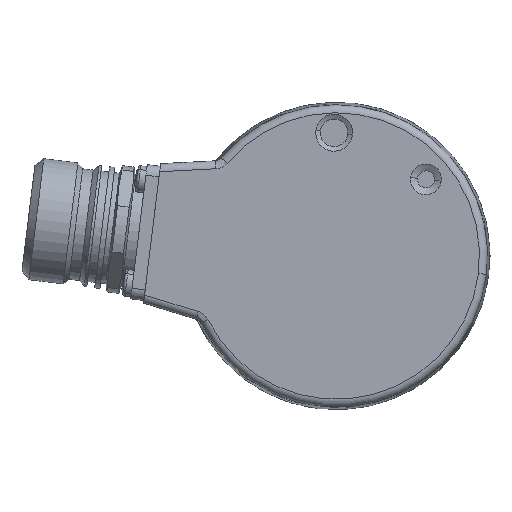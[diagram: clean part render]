
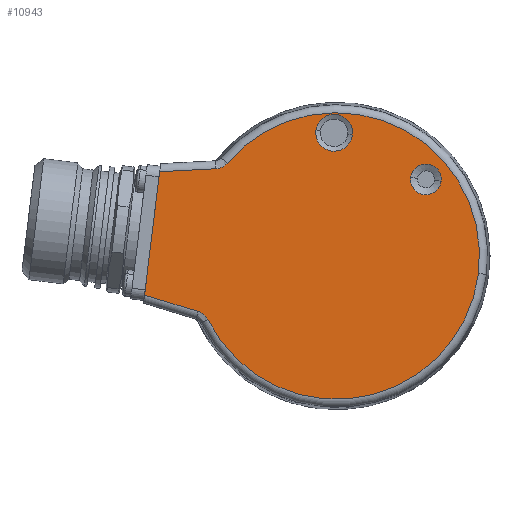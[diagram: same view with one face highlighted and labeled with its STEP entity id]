
A CAD part, left-side view. The second image highlights one B-rep face of the part: STEP entity #10943.
In plain terms, the highlighted planar face has unit normal (-1, 0, 0).
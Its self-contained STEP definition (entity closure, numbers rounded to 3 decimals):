
#5109 = CARTESIAN_POINT ( 'NONE',  ( -30.5, 3.846, 23.669 ) ) ;
#5233 = CARTESIAN_POINT ( 'NONE',  ( -30.5, 22.708, 16.461 ) ) ;
#5305 = DIRECTION ( 'NONE',  ( 1., 0., 0. ) ) ;
#5306 = CARTESIAN_POINT ( 'NONE',  ( -30.5, 0.406, 23.246 ) ) ;
#5307 = AXIS2_PLACEMENT_3D ( 'NONE', #5306, #5305, #5437 ) ;
#5308 = CIRCLE ( 'NONE', #5307, 3.466 ) ;
#5310 = CARTESIAN_POINT ( 'NONE',  ( -30.5, -3.034, 22.824 ) ) ;
#5437 = DIRECTION ( 'NONE',  ( 0., -0.993, -0.122 ) ) ;
#5537 = CARTESIAN_POINT ( 'NONE',  ( -30.5, -14.042, 14.804 ) ) ;
#5538 = DIRECTION ( 'NONE',  ( 0., -0.993, -0.122 ) ) ;
#5539 = DIRECTION ( 'NONE',  ( 1., 0., 0. ) ) ;
#5540 = CARTESIAN_POINT ( 'NONE',  ( -30.5, -16.919, 14.45 ) ) ;
#5541 = AXIS2_PLACEMENT_3D ( 'NONE', #5540, #5539, #5538 ) ;
#5542 = CIRCLE ( 'NONE', #5541, 2.899 ) ;
#5543 = CARTESIAN_POINT ( 'NONE',  ( -30.5, -19.796, 14.097 ) ) ;
#5755 = CARTESIAN_POINT ( 'NONE',  ( -30.5, 20.579, 17.512 ) ) ;
#5756 = CARTESIAN_POINT ( 'NONE',  ( -30.5, -26.821, -3.293 ) ) ;
#5757 = DIRECTION ( 'NONE',  ( 0., -0.993, -0.122 ) ) ;
#5758 = DIRECTION ( 'NONE',  ( -1., 0., 0. ) ) ;
#5759 = CARTESIAN_POINT ( 'NONE',  ( -30.5, 0., 0. ) ) ;
#5760 = AXIS2_PLACEMENT_3D ( 'NONE', #5759, #5758, #5757 ) ;
#5761 = CIRCLE ( 'NONE', #5760, 27.022 ) ;
#6009 = VECTOR ( 'NONE', #6018, 1000. ) ;
#6018 = DIRECTION ( 'NONE',  ( 0., -0.956, -0.292 ) ) ;
#6019 = CARTESIAN_POINT ( 'NONE',  ( -30.5, 25.362, -10.678 ) ) ;
#6021 = LINE ( 'NONE', #6019, #6009 ) ;
#6025 = CARTESIAN_POINT ( 'NONE',  ( -30.5, 33.31, 15.905 ) ) ;
#6071 = DIRECTION ( 'NONE',  ( 0., 0.999, -0.052 ) ) ;
#6072 = VECTOR ( 'NONE', #6071, 1000. ) ;
#6073 = CARTESIAN_POINT ( 'NONE',  ( -30.5, 33.046, 15.919 ) ) ;
#6074 = LINE ( 'NONE', #6073, #6072 ) ;
#6098 = CARTESIAN_POINT ( 'NONE',  ( -30.5, 26.015, -10.478 ) ) ;
#6099 = CARTESIAN_POINT ( 'NONE',  ( -30.5, 25.819, -10.538 ) ) ;
#6100 = CARTESIAN_POINT ( 'NONE',  ( -30.5, 25.632, -10.617 ) ) ;
#6101 = CARTESIAN_POINT ( 'NONE',  ( -30.5, 25.277, -10.811 ) ) ;
#6102 = CARTESIAN_POINT ( 'NONE',  ( -30.5, 25.107, -10.927 ) ) ;
#6103 = CARTESIAN_POINT ( 'NONE',  ( -30.5, 24.797, -11.19 ) ) ;
#6104 = CARTESIAN_POINT ( 'NONE',  ( -30.5, 24.657, -11.336 ) ) ;
#6105 = CARTESIAN_POINT ( 'NONE',  ( -30.5, 24.406, -11.656 ) ) ;
#6106 = CARTESIAN_POINT ( 'NONE',  ( -30.5, 24.296, -11.83 ) ) ;
#6107 = CARTESIAN_POINT ( 'NONE',  ( -30.5, 24.205, -12.014 ) ) ;
#6110 = B_SPLINE_CURVE_WITH_KNOTS ( 'NONE', 3,
 ( #6107, #6106, #6105, #6104, #6103, #6102, #6101, #6100, #6099, #6098 ),
 .UNSPECIFIED., .F., .F.,
 ( 4, 2, 2, 2, 4 ),
 ( 0., 0.001, 0.001, 0.002, 0.002 ),
 .UNSPECIFIED. ) ;
#6157 = DIRECTION ( 'NONE',  ( 0., -0.993, -0.122 ) ) ;
#6158 = DIRECTION ( 'NONE',  ( -1., 0., 0. ) ) ;
#6159 = AXIS2_PLACEMENT_3D ( 'NONE', #6166, #6158, #6157 ) ;
#6160 = CIRCLE ( 'NONE', #6159, 27.022 ) ;
#6166 = CARTESIAN_POINT ( 'NONE',  ( -30.5, 0., 0. ) ) ;
#6210 = CARTESIAN_POINT ( 'NONE',  ( -30.5, 24.205, -12.014 ) ) ;
#6222 = DIRECTION ( 'NONE',  ( 0., -0.122, 0.993 ) ) ;
#6223 = VECTOR ( 'NONE', #6222, 1000. ) ;
#6224 = CARTESIAN_POINT ( 'NONE',  ( -30.5, 36.354, -8.886 ) ) ;
#6225 = LINE ( 'NONE', #6224, #6223 ) ;
#6334 = CARTESIAN_POINT ( 'NONE',  ( -30.5, 36.168, -7.374 ) ) ;
#6505 = FACE_OUTER_BOUND ( 'NONE', #10936, .T. ) ;
#6506 = FACE_BOUND ( 'NONE', #10917, .T. ) ;
#6507 = FACE_BOUND ( 'NONE', #10944, .T. ) ;
#6508 = DIRECTION ( 'NONE',  ( 0., -0.993, -0.122 ) ) ;
#6509 = DIRECTION ( 'NONE',  ( 1., 0., 0. ) ) ;
#6510 = AXIS2_PLACEMENT_3D ( 'NONE', #6517, #6509, #6508 ) ;
#6511 = CIRCLE ( 'NONE', #6510, 2.899 ) ;
#6517 = CARTESIAN_POINT ( 'NONE',  ( -30.5, -16.919, 14.45 ) ) ;
#6559 = DIRECTION ( 'NONE',  ( 0., -0.993, -0.122 ) ) ;
#6560 = DIRECTION ( 'NONE',  ( 1., 0., 0. ) ) ;
#6561 = CARTESIAN_POINT ( 'NONE',  ( -30.5, 0.406, 23.246 ) ) ;
#6562 = AXIS2_PLACEMENT_3D ( 'NONE', #6561, #6560, #6559 ) ;
#6563 = CIRCLE ( 'NONE', #6562, 3.466 ) ;
#6569 = CARTESIAN_POINT ( 'NONE',  ( -30.5, 26.015, -10.478 ) ) ;
#6571 = DIRECTION ( 'NONE',  ( 0., -0.993, -0.122 ) ) ;
#6572 = DIRECTION ( 'NONE',  ( 1., 0., 0. ) ) ;
#6573 = CARTESIAN_POINT ( 'NONE',  ( -30.5, 0., 0. ) ) ;
#6574 = AXIS2_PLACEMENT_3D ( 'NONE', #6573, #6572, #6571 ) ;
#6575 = PLANE ( 'NONE',  #6574 ) ;
#6633 = CARTESIAN_POINT ( 'NONE',  ( -30.5, 20.579, 17.512 ) ) ;
#6634 = CARTESIAN_POINT ( 'NONE',  ( -30.5, 20.712, 17.356 ) ) ;
#6635 = CARTESIAN_POINT ( 'NONE',  ( -30.5, 20.859, 17.216 ) ) ;
#6636 = CARTESIAN_POINT ( 'NONE',  ( -30.5, 21.178, 16.967 ) ) ;
#6637 = CARTESIAN_POINT ( 'NONE',  ( -30.5, 21.352, 16.857 ) ) ;
#6638 = CARTESIAN_POINT ( 'NONE',  ( -30.5, 21.716, 16.677 ) ) ;
#6639 = CARTESIAN_POINT ( 'NONE',  ( -30.5, 21.906, 16.606 ) ) ;
#6640 = CARTESIAN_POINT ( 'NONE',  ( -30.5, 22.299, 16.503 ) ) ;
#6641 = CARTESIAN_POINT ( 'NONE',  ( -30.5, 22.503, 16.471 ) ) ;
#6642 = CARTESIAN_POINT ( 'NONE',  ( -30.5, 22.708, 16.461 ) ) ;
#6650 = B_SPLINE_CURVE_WITH_KNOTS ( 'NONE', 3,
 ( #6642, #6641, #6640, #6639, #6638, #6637, #6636, #6635, #6634, #6633 ),
 .UNSPECIFIED., .F., .F.,
 ( 4, 2, 2, 2, 4 ),
 ( 0., 0.001, 0.001, 0.002, 0.002 ),
 .UNSPECIFIED. ) ;
#10577 = VERTEX_POINT ( 'NONE', #5233 ) ;
#10614 = VERTEX_POINT ( 'NONE', #5109 ) ;
#10666 = VERTEX_POINT ( 'NONE', #5310 ) ;
#10668 = EDGE_CURVE ( 'NONE', #10614, #10666, #5308, .T. ) ;
#10708 = VERTEX_POINT ( 'NONE', #5543 ) ;
#10710 = EDGE_CURVE ( 'NONE', #10711, #10708, #5542, .T. ) ;
#10711 = VERTEX_POINT ( 'NONE', #5537 ) ;
#10781 = EDGE_CURVE ( 'NONE', #10782, #10783, #5761, .T. ) ;
#10782 = VERTEX_POINT ( 'NONE', #5756 ) ;
#10783 = VERTEX_POINT ( 'NONE', #5755 ) ;
#10825 = VERTEX_POINT ( 'NONE', #6025 ) ;
#10827 = EDGE_CURVE ( 'NONE', #10577, #10825, #6074, .T. ) ;
#10854 = EDGE_CURVE ( 'NONE', #10907, #10953, #6021, .T. ) ;
#10861 = VERTEX_POINT ( 'NONE', #6210 ) ;
#10878 = EDGE_CURVE ( 'NONE', #10861, #10953, #6110, .T. ) ;
#10888 = EDGE_CURVE ( 'NONE', #10861, #10782, #6160, .T. ) ;
#10907 = VERTEX_POINT ( 'NONE', #6334 ) ;
#10917 = EDGE_LOOP ( 'NONE', ( #10956, #10957 ) ) ;
#10919 = EDGE_CURVE ( 'NONE', #10907, #10825, #6225, .T. ) ;
#10936 = EDGE_LOOP ( 'NONE', ( #11043, #11044, #11038, #11047, #11056, #11003, #11004 ) ) ;
#10942 = EDGE_CURVE ( 'NONE', #10708, #10711, #6511, .T. ) ;
#10943 = ADVANCED_FACE ( 'NONE', ( #6507, #6506, #6505 ), #6575, .F. ) ;
#10944 = EDGE_LOOP ( 'NONE', ( #10945, #10946 ) ) ;
#10945 = ORIENTED_EDGE ( 'NONE', *, *, #10668, .T. ) ;
#10946 = ORIENTED_EDGE ( 'NONE', *, *, #10955, .T. ) ;
#10953 = VERTEX_POINT ( 'NONE', #6569 ) ;
#10955 = EDGE_CURVE ( 'NONE', #10666, #10614, #6563, .T. ) ;
#10956 = ORIENTED_EDGE ( 'NONE', *, *, #10710, .T. ) ;
#10957 = ORIENTED_EDGE ( 'NONE', *, *, #10942, .T. ) ;
#11003 = ORIENTED_EDGE ( 'NONE', *, *, #10888, .T. ) ;
#11004 = ORIENTED_EDGE ( 'NONE', *, *, #10781, .T. ) ;
#11031 = EDGE_CURVE ( 'NONE', #10577, #10783, #6650, .T. ) ;
#11038 = ORIENTED_EDGE ( 'NONE', *, *, #10919, .F. ) ;
#11043 = ORIENTED_EDGE ( 'NONE', *, *, #11031, .F. ) ;
#11044 = ORIENTED_EDGE ( 'NONE', *, *, #10827, .T. ) ;
#11047 = ORIENTED_EDGE ( 'NONE', *, *, #10854, .T. ) ;
#11056 = ORIENTED_EDGE ( 'NONE', *, *, #10878, .F. ) ;
